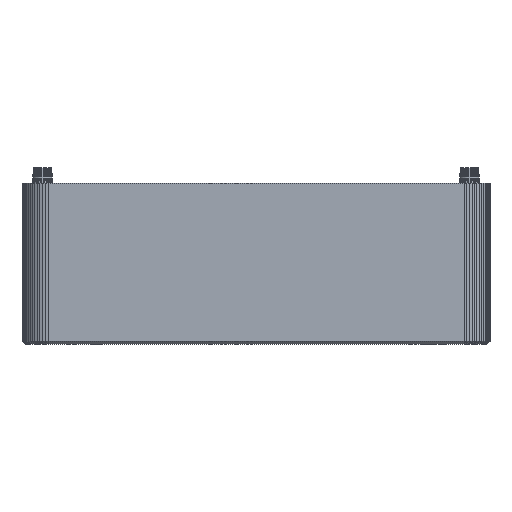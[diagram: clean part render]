
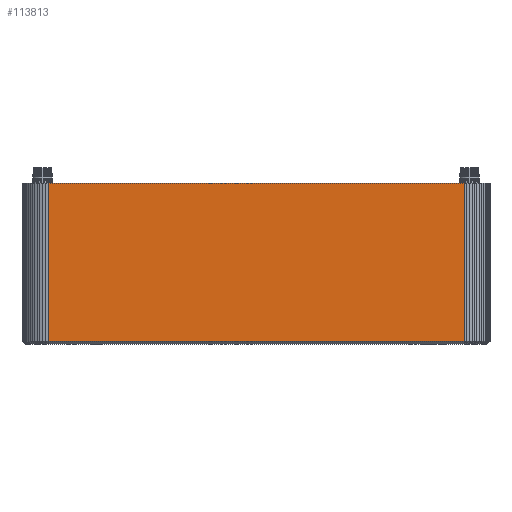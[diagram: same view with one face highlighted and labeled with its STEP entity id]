
A CAD part, front view. The second image highlights one B-rep face of the part: STEP entity #113813.
In plain terms, the highlighted planar face has unit normal (0, -1, 0).
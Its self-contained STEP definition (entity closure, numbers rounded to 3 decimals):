
#2146 = PLANE('',#2147);
#2147 = AXIS2_PLACEMENT_3D('',#2148,#2149,#2150);
#2148 = CARTESIAN_POINT('',(90.422,0.898,0.302
    ));
#2149 = DIRECTION('',(-0.,-0.707,-0.707));
#2150 = DIRECTION('',(0.,0.707,-0.707));
#13372 = PLANE('',#13373);
#13373 = AXIS2_PLACEMENT_3D('',#13374,#13375,#13376);
#13374 = CARTESIAN_POINT('',(1.008,170.314,62.));
#13375 = DIRECTION('',(0.,0.,1.));
#13376 = DIRECTION('',(1.,0.,-0.));
#13879 = VERTEX_POINT('',#13880);
#13880 = CARTESIAN_POINT('',(10.,0.,62.));
#13894 = PLANE('',#13895);
#13895 = AXIS2_PLACEMENT_3D('',#13896,#13897,#13898);
#13896 = CARTESIAN_POINT('',(9.736,0.014,
    31.341));
#13897 = DIRECTION('',(-0.052,-0.999,-0.));
#13898 = DIRECTION('',(-0.999,0.052,0.));
#13906 = EDGE_CURVE('',#13907,#13879,#13909,.T.);
#13907 = VERTEX_POINT('',#13908);
#13908 = CARTESIAN_POINT('',(170.,0.,62.));
#13909 = SURFACE_CURVE('',#13910,(#13914,#13921),.PCURVE_S1.);
#13910 = LINE('',#13911,#13912);
#13911 = CARTESIAN_POINT('',(170.,0.,62.));
#13912 = VECTOR('',#13913,1.);
#13913 = DIRECTION('',(-1.,0.,0.));
#13914 = PCURVE('',#13372,#13915);
#13915 = DEFINITIONAL_REPRESENTATION('',(#13916),#13920);
#13916 = LINE('',#13917,#13918);
#13917 = CARTESIAN_POINT('',(168.992,-170.314));
#13918 = VECTOR('',#13919,1.);
#13919 = DIRECTION('',(-1.,0.));
#13920 = ( GEOMETRIC_REPRESENTATION_CONTEXT(2) 
PARAMETRIC_REPRESENTATION_CONTEXT() REPRESENTATION_CONTEXT('2D SPACE',''
  ) );
#13921 = PCURVE('',#13922,#13927);
#13922 = PLANE('',#13923);
#13923 = AXIS2_PLACEMENT_3D('',#13924,#13925,#13926);
#13924 = CARTESIAN_POINT('',(102.409,0.,19.191));
#13925 = DIRECTION('',(-0.,-1.,-0.));
#13926 = DIRECTION('',(0.,0.,-1.));
#13927 = DEFINITIONAL_REPRESENTATION('',(#13928),#13932);
#13928 = LINE('',#13929,#13930);
#13929 = CARTESIAN_POINT('',(-42.809,67.591));
#13930 = VECTOR('',#13931,1.);
#13931 = DIRECTION('',(0.,-1.));
#13932 = ( GEOMETRIC_REPRESENTATION_CONTEXT(2) 
PARAMETRIC_REPRESENTATION_CONTEXT() REPRESENTATION_CONTEXT('2D SPACE',''
  ) );
#13950 = PLANE('',#13951);
#13951 = AXIS2_PLACEMENT_3D('',#13952,#13953,#13954);
#13952 = CARTESIAN_POINT('',(170.263,0.014,
    31.859));
#13953 = DIRECTION('',(0.052,-0.999,-0.));
#13954 = DIRECTION('',(-0.999,-0.052,0.));
#55573 = VERTEX_POINT('',#55574);
#55574 = CARTESIAN_POINT('',(170.,0.,1.2));
#55622 = EDGE_CURVE('',#55573,#55623,#55625,.T.);
#55623 = VERTEX_POINT('',#55624);
#55624 = CARTESIAN_POINT('',(10.,0.,1.2));
#55625 = SURFACE_CURVE('',#55626,(#55630,#55637),.PCURVE_S1.);
#55626 = LINE('',#55627,#55628);
#55627 = CARTESIAN_POINT('',(170.,0.,1.2));
#55628 = VECTOR('',#55629,1.);
#55629 = DIRECTION('',(-1.,0.,0.));
#55630 = PCURVE('',#2146,#55631);
#55631 = DEFINITIONAL_REPRESENTATION('',(#55632),#55636);
#55632 = LINE('',#55633,#55634);
#55633 = CARTESIAN_POINT('',(-1.271,79.578));
#55634 = VECTOR('',#55635,1.);
#55635 = DIRECTION('',(0.,-1.));
#55636 = ( GEOMETRIC_REPRESENTATION_CONTEXT(2) 
PARAMETRIC_REPRESENTATION_CONTEXT() REPRESENTATION_CONTEXT('2D SPACE',''
  ) );
#55637 = PCURVE('',#13922,#55638);
#55638 = DEFINITIONAL_REPRESENTATION('',(#55639),#55643);
#55639 = LINE('',#55640,#55641);
#55640 = CARTESIAN_POINT('',(17.991,67.591));
#55641 = VECTOR('',#55642,1.);
#55642 = DIRECTION('',(0.,-1.));
#55643 = ( GEOMETRIC_REPRESENTATION_CONTEXT(2) 
PARAMETRIC_REPRESENTATION_CONTEXT() REPRESENTATION_CONTEXT('2D SPACE',''
  ) );
#113791 = EDGE_CURVE('',#55573,#13907,#113792,.T.);
#113792 = SURFACE_CURVE('',#113793,(#113797,#113804),.PCURVE_S1.);
#113793 = LINE('',#113794,#113795);
#113794 = CARTESIAN_POINT('',(170.,0.,1.2));
#113795 = VECTOR('',#113796,1.);
#113796 = DIRECTION('',(0.,0.,1.));
#113797 = PCURVE('',#13950,#113798);
#113798 = DEFINITIONAL_REPRESENTATION('',(#113799),#113803);
#113799 = LINE('',#113800,#113801);
#113800 = CARTESIAN_POINT('',(0.264,30.659));
#113801 = VECTOR('',#113802,1.);
#113802 = DIRECTION('',(0.,-1.));
#113803 = ( GEOMETRIC_REPRESENTATION_CONTEXT(2) 
PARAMETRIC_REPRESENTATION_CONTEXT() REPRESENTATION_CONTEXT('2D SPACE',''
  ) );
#113804 = PCURVE('',#13922,#113805);
#113805 = DEFINITIONAL_REPRESENTATION('',(#113806),#113810);
#113806 = LINE('',#113807,#113808);
#113807 = CARTESIAN_POINT('',(17.991,67.591));
#113808 = VECTOR('',#113809,1.);
#113809 = DIRECTION('',(-1.,0.));
#113810 = ( GEOMETRIC_REPRESENTATION_CONTEXT(2) 
PARAMETRIC_REPRESENTATION_CONTEXT() REPRESENTATION_CONTEXT('2D SPACE',''
  ) );
#113813 = ADVANCED_FACE('',(#113814),#13922,.T.);
#113814 = FACE_BOUND('',#113815,.T.);
#113815 = EDGE_LOOP('',(#113816,#113817,#113818,#113819));
#113816 = ORIENTED_EDGE('',*,*,#55622,.F.);
#113817 = ORIENTED_EDGE('',*,*,#113791,.T.);
#113818 = ORIENTED_EDGE('',*,*,#13906,.T.);
#113819 = ORIENTED_EDGE('',*,*,#113820,.F.);
#113820 = EDGE_CURVE('',#55623,#13879,#113821,.T.);
#113821 = SURFACE_CURVE('',#113822,(#113826,#113833),.PCURVE_S1.);
#113822 = LINE('',#113823,#113824);
#113823 = CARTESIAN_POINT('',(10.,0.,1.2));
#113824 = VECTOR('',#113825,1.);
#113825 = DIRECTION('',(0.,0.,1.));
#113826 = PCURVE('',#13922,#113827);
#113827 = DEFINITIONAL_REPRESENTATION('',(#113828),#113832);
#113828 = LINE('',#113829,#113830);
#113829 = CARTESIAN_POINT('',(17.991,-92.409));
#113830 = VECTOR('',#113831,1.);
#113831 = DIRECTION('',(-1.,0.));
#113832 = ( GEOMETRIC_REPRESENTATION_CONTEXT(2) 
PARAMETRIC_REPRESENTATION_CONTEXT() REPRESENTATION_CONTEXT('2D SPACE',''
  ) );
#113833 = PCURVE('',#13894,#113834);
#113834 = DEFINITIONAL_REPRESENTATION('',(#113835),#113839);
#113835 = LINE('',#113836,#113837);
#113836 = CARTESIAN_POINT('',(-0.264,30.141));
#113837 = VECTOR('',#113838,1.);
#113838 = DIRECTION('',(0.,-1.));
#113839 = ( GEOMETRIC_REPRESENTATION_CONTEXT(2) 
PARAMETRIC_REPRESENTATION_CONTEXT() REPRESENTATION_CONTEXT('2D SPACE',''
  ) );
